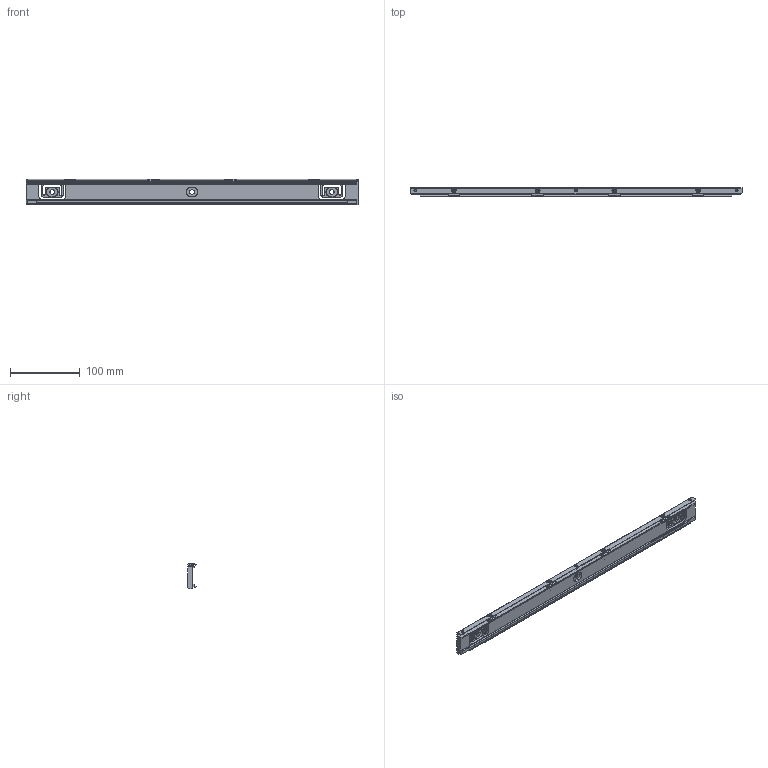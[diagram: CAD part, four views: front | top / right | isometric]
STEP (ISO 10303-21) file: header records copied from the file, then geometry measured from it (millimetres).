
FILE_DESCRIPTION(('Creo Elements/Direct Modeling STEP Export'),'2;1');
FILE_NAME('B3-370.stp','2020-10-30T12:17:44',(''),(''),'Creo Elements/Direct Modeling STEP processor for AP214 (Solid Model)','Creo Elements/Direct Modeling 19.0G 27-Nov-2017 (C) Parametric Technology GmbH','');
FILE_SCHEMA(('AUTOMOTIVE_DESIGN { 1 0 10303 214 1 1 1 1 }'));
Length unit declared in the file: millimetre
Products named in the file (2): PERFIL_SOPORTE_MECANIZADO_REGLA_SV3-370
Assembly tree (1 placements, depth 2):
  PERFIL_SOPORTE_MECANIZADO_REGLA_SV3-370
    PERFIL_SOPORTE_MECANIZADO_REGLA_SV3-370
Bounding box: 475 x 12.13 x 36.1 mm (x, y, z)
Volume: 114041.9 mm3; surface area: 61042.3 mm2
Topology: 1 solids, 1 shells, 838 faces, 2454 edges, 1614 vertices
Faces by surface type: plane 448, cylinder 292, cone 66, torus 16, bspline 16
Entity records: 31030 total; most frequent: CARTESIAN_POINT 6848, ORIENTED_EDGE 4884, DIRECTION 4105, EDGE_CURVE 2442, VERTEX_POINT 1614, VECTOR 1387, LINE 1387, AXIS2_PLACEMENT_3D 1359
